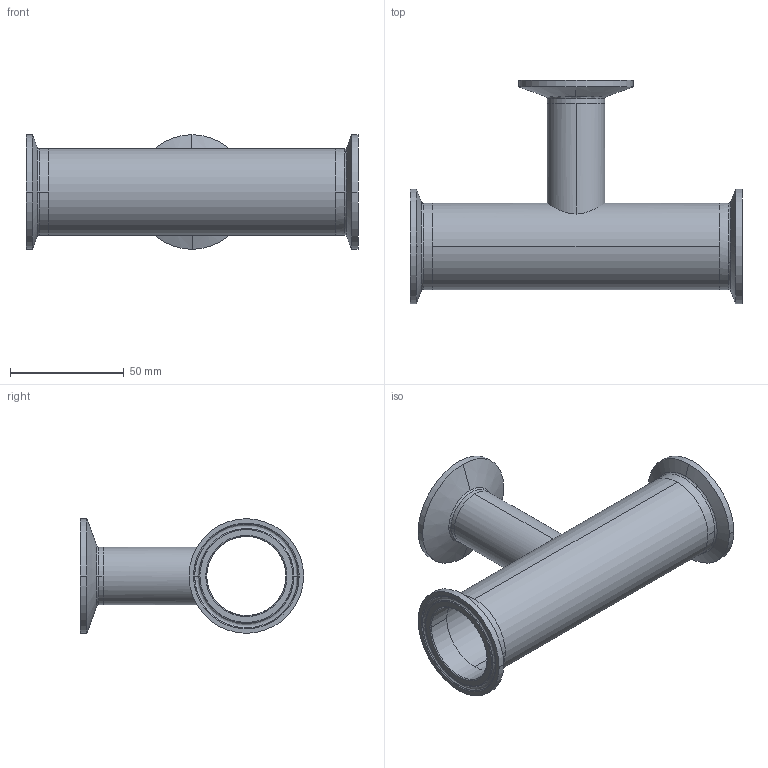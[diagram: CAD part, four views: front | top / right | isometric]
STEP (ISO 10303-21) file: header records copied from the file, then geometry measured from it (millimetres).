
FILE_DESCRIPTION (( 'STEP AP214' ), '1' );
FILE_NAME ('TEG7R6L1.5x1.0-...STEP', '2016-05-24T06:10:10', ( 'eran' ), ( '' ), 'SwSTEP 2.0', 'SolidWorks 2016', '' );
FILE_SCHEMA (( 'AUTOMOTIVE_DESIGN' ));
Length unit declared in the file: millimetre
Products named in the file (1): TEG7R6L1.5x1.0-..
Bounding box: 146 x 98.2 x 50.39 mm (x, y, z)
Volume: 47221.2 mm3; surface area: 48752.4 mm2
Topology: 4 solids, 4 shells, 86 faces, 214 edges, 140 vertices
Faces by surface type: bspline 30, cylinder 26, cone 18, plane 12
Entity records: 4653 total; most frequent: CARTESIAN_POINT 2539, DIRECTION 454, ORIENTED_EDGE 428, EDGE_CURVE 214, AXIS2_PLACEMENT_3D 205, CIRCLE 148, VERTEX_POINT 140, EDGE_LOOP 100
